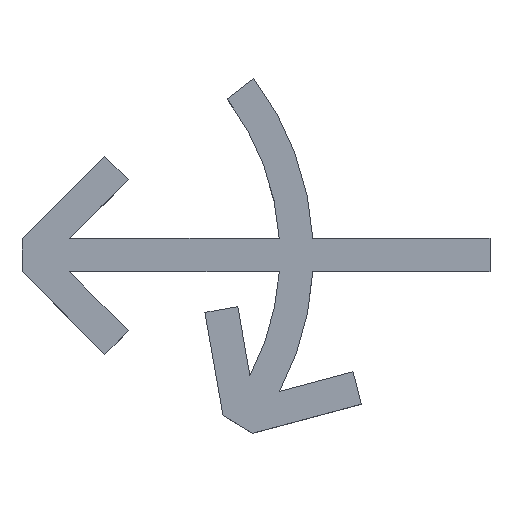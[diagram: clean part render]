
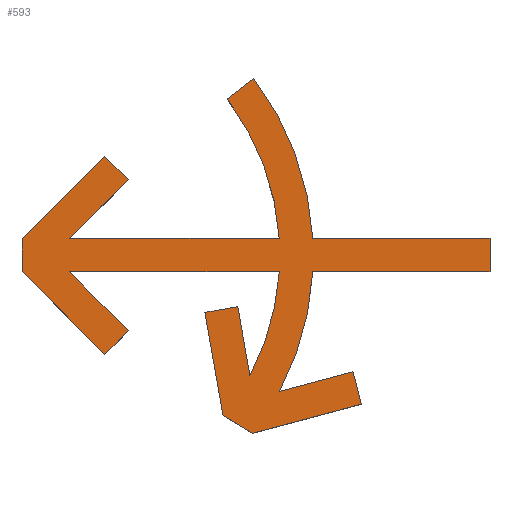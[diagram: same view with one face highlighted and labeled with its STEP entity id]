
A CAD part, top view. The second image highlights one B-rep face of the part: STEP entity #593.
In plain terms, the highlighted planar face has unit normal (0, 0, 1).
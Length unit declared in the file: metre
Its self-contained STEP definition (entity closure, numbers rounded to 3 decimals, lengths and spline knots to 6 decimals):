
#111=PLANE('',#632);
#115=LINE('',#780,#179);
#118=LINE('',#786,#182);
#121=LINE('',#792,#185);
#125=LINE('',#804,#189);
#128=LINE('',#810,#192);
#131=LINE('',#816,#195);
#134=LINE('',#822,#198);
#137=LINE('',#828,#201);
#140=LINE('',#834,#204);
#143=LINE('',#840,#207);
#147=LINE('',#852,#211);
#150=LINE('',#858,#214);
#153=LINE('',#864,#217);
#156=LINE('',#870,#220);
#159=LINE('',#876,#223);
#162=LINE('',#882,#226);
#165=LINE('',#888,#229);
#168=LINE('',#894,#232);
#171=LINE('',#900,#235);
#175=LINE('',#911,#239);
#179=VECTOR('',#646,1.);
#182=VECTOR('',#651,1.);
#185=VECTOR('',#656,1.);
#189=VECTOR('',#668,1.);
#192=VECTOR('',#673,1.);
#195=VECTOR('',#678,1.);
#198=VECTOR('',#683,1.);
#201=VECTOR('',#688,1.);
#204=VECTOR('',#693,1.);
#207=VECTOR('',#698,1.);
#211=VECTOR('',#710,1.);
#214=VECTOR('',#715,1.);
#217=VECTOR('',#720,1.);
#220=VECTOR('',#725,1.);
#223=VECTOR('',#730,1.);
#226=VECTOR('',#735,1.);
#229=VECTOR('',#740,1.);
#232=VECTOR('',#745,1.);
#235=VECTOR('',#750,1.);
#239=VECTOR('',#762,1.);
#360=ORIENTED_EDGE('',*,*,#455,.T.);
#361=ORIENTED_EDGE('',*,*,#452,.T.);
#362=ORIENTED_EDGE('',*,*,#449,.T.);
#363=ORIENTED_EDGE('',*,*,#446,.T.);
#364=ORIENTED_EDGE('',*,*,#443,.T.);
#365=ORIENTED_EDGE('',*,*,#440,.T.);
#366=ORIENTED_EDGE('',*,*,#437,.T.);
#367=ORIENTED_EDGE('',*,*,#434,.T.);
#368=ORIENTED_EDGE('',*,*,#431,.T.);
#369=ORIENTED_EDGE('',*,*,#428,.T.);
#370=ORIENTED_EDGE('',*,*,#425,.T.);
#371=ORIENTED_EDGE('',*,*,#422,.T.);
#372=ORIENTED_EDGE('',*,*,#419,.T.);
#373=ORIENTED_EDGE('',*,*,#416,.T.);
#374=ORIENTED_EDGE('',*,*,#413,.T.);
#375=ORIENTED_EDGE('',*,*,#410,.T.);
#376=ORIENTED_EDGE('',*,*,#407,.T.);
#377=ORIENTED_EDGE('',*,*,#404,.T.);
#378=ORIENTED_EDGE('',*,*,#401,.T.);
#379=ORIENTED_EDGE('',*,*,#398,.T.);
#380=ORIENTED_EDGE('',*,*,#395,.T.);
#381=ORIENTED_EDGE('',*,*,#392,.T.);
#382=ORIENTED_EDGE('',*,*,#389,.T.);
#383=ORIENTED_EDGE('',*,*,#386,.T.);
#386=EDGE_CURVE('',#459,#458,#505,.T.);
#389=EDGE_CURVE('',#461,#459,#115,.F.);
#392=EDGE_CURVE('',#463,#461,#118,.F.);
#395=EDGE_CURVE('',#465,#463,#121,.T.);
#398=EDGE_CURVE('',#467,#465,#507,.T.);
#401=EDGE_CURVE('',#469,#467,#125,.T.);
#404=EDGE_CURVE('',#471,#469,#128,.T.);
#407=EDGE_CURVE('',#473,#471,#131,.T.);
#410=EDGE_CURVE('',#475,#473,#134,.T.);
#413=EDGE_CURVE('',#477,#475,#137,.T.);
#416=EDGE_CURVE('',#479,#477,#140,.T.);
#419=EDGE_CURVE('',#481,#479,#143,.T.);
#422=EDGE_CURVE('',#483,#481,#509,.F.);
#425=EDGE_CURVE('',#485,#483,#147,.T.);
#428=EDGE_CURVE('',#487,#485,#150,.T.);
#431=EDGE_CURVE('',#489,#487,#153,.T.);
#434=EDGE_CURVE('',#491,#489,#156,.T.);
#437=EDGE_CURVE('',#493,#491,#159,.T.);
#440=EDGE_CURVE('',#495,#493,#162,.T.);
#443=EDGE_CURVE('',#497,#495,#165,.T.);
#446=EDGE_CURVE('',#499,#497,#168,.T.);
#449=EDGE_CURVE('',#501,#499,#171,.F.);
#452=EDGE_CURVE('',#503,#501,#511,.F.);
#455=EDGE_CURVE('',#458,#503,#175,.T.);
#458=VERTEX_POINT('',#773);
#459=VERTEX_POINT('',#775);
#461=VERTEX_POINT('',#781);
#463=VERTEX_POINT('',#787);
#465=VERTEX_POINT('',#793);
#467=VERTEX_POINT('',#799);
#469=VERTEX_POINT('',#805);
#471=VERTEX_POINT('',#811);
#473=VERTEX_POINT('',#817);
#475=VERTEX_POINT('',#823);
#477=VERTEX_POINT('',#829);
#479=VERTEX_POINT('',#835);
#481=VERTEX_POINT('',#841);
#483=VERTEX_POINT('',#847);
#485=VERTEX_POINT('',#853);
#487=VERTEX_POINT('',#859);
#489=VERTEX_POINT('',#865);
#491=VERTEX_POINT('',#871);
#493=VERTEX_POINT('',#877);
#495=VERTEX_POINT('',#883);
#497=VERTEX_POINT('',#889);
#499=VERTEX_POINT('',#895);
#501=VERTEX_POINT('',#901);
#503=VERTEX_POINT('',#907);
#505=CIRCLE('',#601,0.001743);
#507=CIRCLE('',#607,0.001743);
#509=CIRCLE('',#617,0.001543);
#511=CIRCLE('',#629,0.001543);
#537=EDGE_LOOP('',(#360,#361,#362,#363,#364,#365,#366,#367,#368,#369,#370,
#371,#372,#373,#374,#375,#376,#377,#378,#379,#380,#381,#382,#383));
#563=FACE_BOUND('',#537,.T.);
#593=ADVANCED_FACE('',(#563),#111,.F.);
#601=AXIS2_PLACEMENT_3D('',#774,#640,#641);
#607=AXIS2_PLACEMENT_3D('',#798,#662,#663);
#617=AXIS2_PLACEMENT_3D('',#846,#704,#705);
#629=AXIS2_PLACEMENT_3D('',#906,#756,#757);
#632=AXIS2_PLACEMENT_3D('',#913,#765,#766);
#640=DIRECTION('',(0.,0.,1.));
#641=DIRECTION('',(-1.,0.,0.));
#646=DIRECTION('',(1.,0.,0.));
#651=DIRECTION('',(0.,-1.,0.));
#656=DIRECTION('',(1.,0.,0.));
#662=DIRECTION('',(0.,0.,1.));
#663=DIRECTION('',(-1.,0.,0.));
#668=DIRECTION('',(-0.966,-0.259,0.));
#673=DIRECTION('',(-0.259,0.966,0.));
#678=DIRECTION('',(0.966,0.259,0.));
#683=DIRECTION('',(0.857,-0.516,0.));
#688=DIRECTION('',(0.174,-0.985,0.));
#693=DIRECTION('',(-0.985,-0.174,0.));
#698=DIRECTION('',(-0.174,0.985,0.));
#704=DIRECTION('',(0.,0.,1.));
#705=DIRECTION('',(-1.,0.,0.));
#710=DIRECTION('',(1.,0.,0.));
#715=DIRECTION('',(-0.707,0.707,0.));
#720=DIRECTION('',(0.707,0.707,0.));
#725=DIRECTION('',(0.707,-0.707,0.));
#730=DIRECTION('',(0.,-1.,0.));
#735=DIRECTION('',(-0.707,-0.707,0.));
#740=DIRECTION('',(-0.707,0.707,0.));
#745=DIRECTION('',(0.707,0.707,0.));
#750=DIRECTION('',(1.,0.,0.));
#756=DIRECTION('',(0.,0.,1.));
#757=DIRECTION('',(-1.,0.,0.));
#762=DIRECTION('',(-0.795,-0.606,0.));
#765=DIRECTION('',(0.,0.,-1.));
#766=DIRECTION('',(1.,0.,0.));
#773=CARTESIAN_POINT('',(-0.013803,-0.001844,-0.0295));
#774=CARTESIAN_POINT('',(-0.015188,-0.0029,-0.0295));
#775=CARTESIAN_POINT('',(-0.013449,-0.0028,-0.0295));
#780=CARTESIAN_POINT('',(-0.013788,-0.0028,-0.0295));
#781=CARTESIAN_POINT('',(-0.012388,-0.0028,-0.0295));
#786=CARTESIAN_POINT('',(-0.012388,-0.002905,-0.0295));
#787=CARTESIAN_POINT('',(-0.012388,-0.003,-0.0295));
#792=CARTESIAN_POINT('',(-0.013788,-0.003,-0.0295));
#793=CARTESIAN_POINT('',(-0.013449,-0.003,-0.0295));
#798=CARTESIAN_POINT('',(-0.015188,-0.0029,-0.0295));
#799=CARTESIAN_POINT('',(-0.013648,-0.003716,-0.0295));
#804=CARTESIAN_POINT('',(-0.013209,-0.003599,-0.0295));
#805=CARTESIAN_POINT('',(-0.013209,-0.003599,-0.0295));
#810=CARTESIAN_POINT('',(-0.013157,-0.003792,-0.0295));
#811=CARTESIAN_POINT('',(-0.013157,-0.003792,-0.0295));
#816=CARTESIAN_POINT('',(-0.01381,-0.003967,-0.0295));
#817=CARTESIAN_POINT('',(-0.01381,-0.003967,-0.0295));
#822=CARTESIAN_POINT('',(-0.013986,-0.003861,-0.0295));
#823=CARTESIAN_POINT('',(-0.013986,-0.003861,-0.0295));
#828=CARTESIAN_POINT('',(-0.014095,-0.003243,-0.0295));
#829=CARTESIAN_POINT('',(-0.014095,-0.003243,-0.0295));
#834=CARTESIAN_POINT('',(-0.013898,-0.003209,-0.0295));
#835=CARTESIAN_POINT('',(-0.013898,-0.003209,-0.0295));
#840=CARTESIAN_POINT('',(-0.013825,-0.003621,-0.0295));
#841=CARTESIAN_POINT('',(-0.013825,-0.003621,-0.0295));
#846=CARTESIAN_POINT('',(-0.015188,-0.0029,-0.0295));
#847=CARTESIAN_POINT('',(-0.013649,-0.003,-0.0295));
#852=CARTESIAN_POINT('',(-0.013788,-0.003,-0.0295));
#853=CARTESIAN_POINT('',(-0.014904,-0.003,-0.0295));
#858=CARTESIAN_POINT('',(-0.014552,-0.003353,-0.0295));
#859=CARTESIAN_POINT('',(-0.014552,-0.003353,-0.0295));
#864=CARTESIAN_POINT('',(-0.014693,-0.003494,-0.0295));
#865=CARTESIAN_POINT('',(-0.014693,-0.003494,-0.0295));
#870=CARTESIAN_POINT('',(-0.015188,-0.002999,-0.0295));
#871=CARTESIAN_POINT('',(-0.015188,-0.002999,-0.0295));
#876=CARTESIAN_POINT('',(-0.015188,-0.002905,-0.0295));
#877=CARTESIAN_POINT('',(-0.015188,-0.002802,-0.0295));
#882=CARTESIAN_POINT('',(-0.014694,-0.002308,-0.0295));
#883=CARTESIAN_POINT('',(-0.014694,-0.002308,-0.0295));
#888=CARTESIAN_POINT('',(-0.014553,-0.002449,-0.0295));
#889=CARTESIAN_POINT('',(-0.014553,-0.002449,-0.0295));
#894=CARTESIAN_POINT('',(-0.014904,-0.0028,-0.0295));
#895=CARTESIAN_POINT('',(-0.014904,-0.0028,-0.0295));
#900=CARTESIAN_POINT('',(-0.013788,-0.0028,-0.0295));
#901=CARTESIAN_POINT('',(-0.013649,-0.0028,-0.0295));
#906=CARTESIAN_POINT('',(-0.015188,-0.0029,-0.0295));
#907=CARTESIAN_POINT('',(-0.013962,-0.001965,-0.0295));
#911=CARTESIAN_POINT('',(-0.013803,-0.001844,-0.0295));
#913=CARTESIAN_POINT('',(-0.013788,-0.002905,-0.0295));
